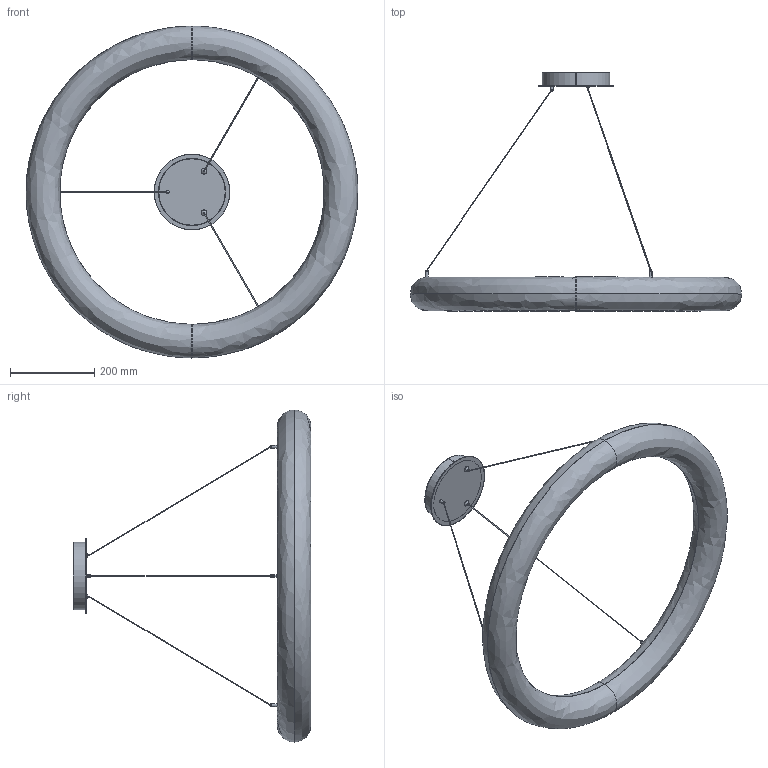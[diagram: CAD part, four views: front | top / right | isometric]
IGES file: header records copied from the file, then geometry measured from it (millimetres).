
Start section: SolidWorks IGES file using analytic representation for surfaces
Global section: file name: F:\燠隴矨\3D\2025-11\Halo di Pietra Chandelier-D79cm.IGS,15; native system: HSolidWorks 2022; preprocessor: SolidWorks 2022; author: MyPC; date: 251124.092144; units: millimetre
Bounding box: 789.51 x 566.19 x 790 mm (x, y, z)
Surface area: 693765.2 mm2 (no closed solid volume)
Topology: 0 solids, 0 shells, 66 faces, 936 edges, 922 vertices
Faces by surface type: bspline 34, revolution 32
